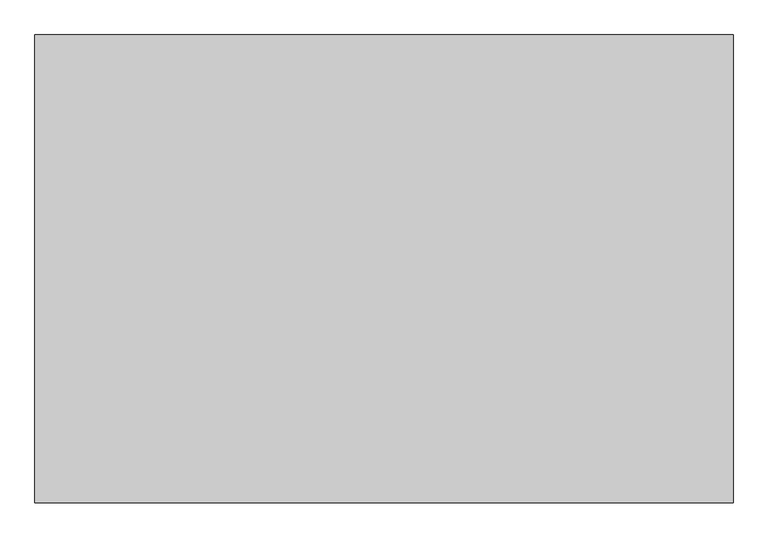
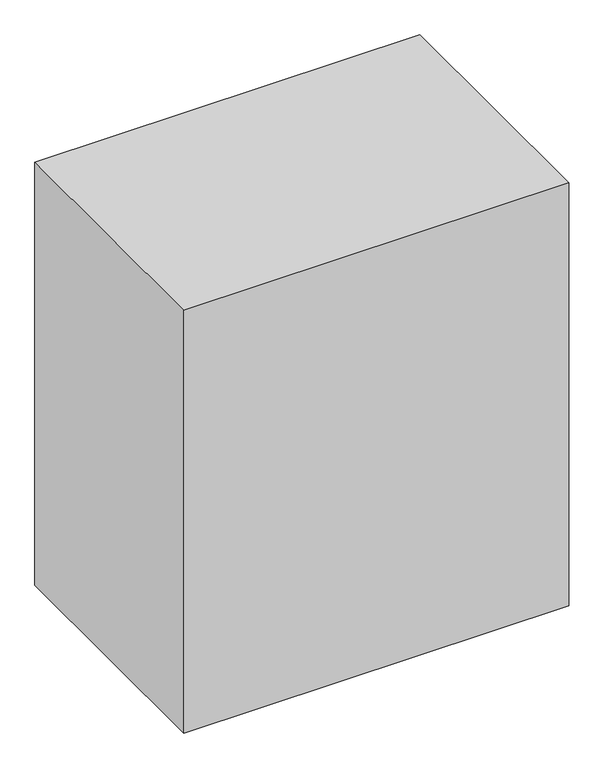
"""IFC4 building model written with IfcOpenShell, lengths in millimetres: proxy geometry."""

import ifcopenshell
import ifcopenshell.guid

model = None  # the IFC model being written
_history = None  # IfcOwnerHistory: only IFC2X3 demands one
_inside = {}  # id of a spatial element -> (the spatial element, [elements in it])
_under = {}  # id of a project, library or spatial element -> (it, [spatial elements below it])
_declared = {}  # id of a project -> (the project, [libraries it declares])
_typed = {}  # id of a type object -> (the type object, [elements of that type])
_made_of = {}  # id of a material, layer set ... -> (it, [elements and type objects made of it])


def new_model(schema):
    """Start an empty IFC model of exactly this schema.

    Asked for "IFC4X3", IfcOpenShell would pick the latest addendum, in which some entities
    have other attributes; the version numbers below select the first issue.
    IFC2X3 requires an IfcOwnerHistory on every rooted entity: one is made here for all.
    """
    global model, _history
    if schema == "IFC4X3":
        model = ifcopenshell.file(schema_version=(4, 3, 0, 0))
    else:
        model = ifcopenshell.file(schema=schema)
    _inside.clear()
    _under.clear()
    _declared.clear()
    _typed.clear()
    _made_of.clear()
    _history = None
    if model.schema == "IFC2X3":
        org = make("IfcOrganization", Name="unknown")
        user = make(
            "IfcPersonAndOrganization",
            ThePerson=make("IfcPerson", FamilyName="unknown"),
            TheOrganization=org,
        )
        app = make(
            "IfcApplication",
            ApplicationDeveloper=org,
            Version="unknown",
            ApplicationFullName="unknown",
            ApplicationIdentifier="unknown",
        )
        _history = make(
            "IfcOwnerHistory",
            OwningUser=user,
            OwningApplication=app,
            ChangeAction="ADDED",
            CreationDate=0,
        )
    return model


def make(cls, **values):
    """One entity of the class cls with the attributes given. An attribute that is None is left unset."""
    return model.create_entity(
        cls, **{name: value for name, value in values.items() if value is not None}
    )


def rooted(cls, **values):
    """An entity with a GlobalId (a new one), such as an element, a storey or a relation."""
    return make(cls, GlobalId=ifcopenshell.guid.new(), OwnerHistory=_history, **values)


def si_unit(unit_type, name, prefix=None):
    """IfcSIUnit, for example si_unit("LENGTHUNIT", "METRE", prefix="MILLI")."""
    return make("IfcSIUnit", UnitType=unit_type, Prefix=prefix, Name=name)


def assignment(units):
    """IfcUnitAssignment: the units of a project."""
    return None if units is None else make("IfcUnitAssignment", Units=units)


def point(xyz):
    """IfcCartesianPoint."""
    return None if xyz is None else make("IfcCartesianPoint", Coordinates=xyz)


def direction(xyz):
    """IfcDirection."""
    return None if xyz is None else make("IfcDirection", DirectionRatios=xyz)


def frame(location, z_axis=None, x_axis=None):
    """IfcAxis2Placement3D, a coordinate frame: its origin and axes. An axis left out is left unset."""
    return make(
        "IfcAxis2Placement3D",
        Location=point(location),
        Axis=direction(z_axis),
        RefDirection=direction(x_axis),
    )


def origin():
    """The frame at (0, 0, 0) with its axes left unset."""
    return frame((0.0, 0.0, 0.0))


def origin_with_axes():
    """The frame at (0, 0, 0) with the z axis (0, 0, 1) and the x axis (1, 0, 0) written out."""
    return frame((0.0, 0.0, 0.0), z_axis=(0.0, 0.0, 1.0), x_axis=(1.0, 0.0, 0.0))


def place(relative_to, where):
    """IfcLocalPlacement: puts the frame where relative to a parent placement (None: the world)."""
    return make(
        "IfcLocalPlacement", PlacementRelTo=relative_to, RelativePlacement=where
    )


def context(
    kind, dimensions, precision=None, world=None, true_north=None, identifier=None
):
    """IfcGeometricRepresentationContext, for example the 3D "Model" context."""
    return make(
        "IfcGeometricRepresentationContext",
        ContextIdentifier=identifier,
        ContextType=kind,
        CoordinateSpaceDimension=dimensions,
        Precision=precision,
        WorldCoordinateSystem=world,
        TrueNorth=true_north,
    )


def project(units=None, contexts=None):
    """IfcProject with its units and contexts."""
    return rooted(
        "IfcProject",
        Name="project",
        RepresentationContexts=contexts,
        UnitsInContext=assignment(units),
    )


def spatial(cls, under=None, at=None, **own):
    """A site, building, storey or space (cls), placed at a placement, below another one or the project."""
    s = rooted(cls, ObjectPlacement=at, **own)
    if under is not None:
        _under.setdefault(under.id(), (under, []))[1].append(s)
    return s


def polyline(points):
    """IfcPolyline through the points."""
    return make("IfcPolyline", Points=[point(p) for p in points])


def outline(outer, holes=None, kind="AREA"):
    """IfcArbitraryClosedProfileDef: a profile drawn as a closed curve; with holes, ...WithVoids."""
    if holes is None:
        return make("IfcArbitraryClosedProfileDef", ProfileType=kind, OuterCurve=outer)
    return make(
        "IfcArbitraryProfileDefWithVoids",
        ProfileType=kind,
        OuterCurve=outer,
        InnerCurves=holes,
    )


def extrude(swept, where, along, depth):
    """IfcExtrudedAreaSolid: the profile swept, set in the frame where, extruded along a direction by depth."""
    return make(
        "IfcExtrudedAreaSolid",
        SweptArea=swept,
        Position=where,
        ExtrudedDirection=direction(along),
        Depth=depth,
    )


def shape(context_of_items, identifier, shape_type, items):
    """IfcShapeRepresentation: the items that make up one representation, for example the "Body"."""
    return make(
        "IfcShapeRepresentation",
        ContextOfItems=context_of_items,
        RepresentationIdentifier=identifier,
        RepresentationType=shape_type,
        Items=items,
    )


def source(mapping_origin, context_of_items, identifier, shape_type, items):
    """IfcRepresentationMap: a shape defined once, which mapped items show again and again."""
    return make(
        "IfcRepresentationMap",
        MappingOrigin=mapping_origin,
        MappedRepresentation=shape(context_of_items, identifier, shape_type, items),
    )


def transform(
    local_origin,
    x_axis=None,
    y_axis=None,
    z_axis=None,
    scale=None,
    scale2=None,
    scale3=None,
    uniform=True,
):
    """IfcCartesianTransformationOperator3D, or its non-uniform kind. x_axis, y_axis, z_axis: its Axis1, 2, 3."""
    if uniform:
        return make(
            "IfcCartesianTransformationOperator3D",
            Axis1=direction(x_axis),
            Axis2=direction(y_axis),
            LocalOrigin=point(local_origin),
            Scale=scale,
            Axis3=direction(z_axis),
        )
    return make(
        "IfcCartesianTransformationOperator3DnonUniform",
        Axis1=direction(x_axis),
        Axis2=direction(y_axis),
        LocalOrigin=point(local_origin),
        Scale=scale,
        Axis3=direction(z_axis),
        Scale2=scale2,
        Scale3=scale3,
    )


def mapped(mapping_source, mapping_target):
    """IfcMappedItem: shows the shape of a source again, moved by a transform."""
    return make(
        "IfcMappedItem", MappingSource=mapping_source, MappingTarget=mapping_target
    )


def made_of(thing, what):
    """Note that an element or type object is made of a material, layer set ...; save() writes the relation."""
    if what is not None:
        _made_of.setdefault(what.id(), (what, []))[1].append(thing)
    return thing


def element(
    cls,
    number,
    at=None,
    inside=None,
    cuts=None,
    type_object=None,
    material=None,
    context=None,
    identifier="Body",
    shape_type=None,
    held_by="IfcProductDefinitionShape",
    body=None,
    shapes=None,
    **own,
):
    """One element of the class cls, such as IfcWall. Its Tag is "e" and its number.

    at: its placement. inside: the storey or other place that contains it. cuts: it is an
    opening in that element (IfcRelVoidsElement). A single representation is given by context,
    identifier, shape_type and body (its items); several are given by shapes. held_by: the class
    of the entity that holds the representations. save() writes the other relations.
    """
    e = rooted(cls, Tag="e%d" % number, ObjectPlacement=at, **own)
    if body is not None:
        shapes = [shape(context, identifier, shape_type, body)]
    if shapes is not None:
        e.Representation = make(held_by, Representations=shapes)
    if inside is not None:
        _inside.setdefault(inside.id(), (inside, []))[1].append(e)
    if cuts is not None:
        rooted(
            "IfcRelVoidsElement", RelatingBuildingElement=cuts, RelatedOpeningElement=e
        )
    if type_object is not None:
        _typed.setdefault(type_object.id(), (type_object, []))[1].append(e)
    return made_of(e, material)


def aggregate(whole, parts):
    """IfcRelAggregates: a whole, such as a stair, and the parts it consists of."""
    return rooted("IfcRelAggregates", RelatingObject=whole, RelatedObjects=parts)


def save(model, path):
    """Write the relations noted so far, then the file.

    IfcRelAggregates (storeys below a building ...), IfcRelContainedInSpatialStructure (elements
    in a storey), IfcRelDefinesByType, IfcRelAssociatesMaterial and IfcRelDeclares: one each for
    every whole, place, type object, material and project.
    """
    for whole, parts in _under.values():
        aggregate(whole, parts)
    for where, things in _inside.values():
        rooted(
            "IfcRelContainedInSpatialStructure",
            RelatedElements=things,
            RelatingStructure=where,
        )
    for kind, things in _typed.values():
        rooted("IfcRelDefinesByType", RelatedObjects=things, RelatingType=kind)
    for what, things in _made_of.values():
        rooted("IfcRelAssociatesMaterial", RelatedObjects=things, RelatingMaterial=what)
    for by, libraries in _declared.values():
        rooted("IfcRelDeclares", RelatingContext=by, RelatedDefinitions=libraries)
    model.write(path)


def generic_models_2da33919(model_context):
    return source(origin(), model_context, "Body", "SweptSolid", [
        extrude(outline(polyline([(-93558.5922282, -30450.7903364), (-91319.3218005, -30450.7903364), (-91319.3218005, -31950.7903364), (-93558.5922282, -31950.7903364), (-93558.5922282, -30450.7903364)])), origin_with_axes(), (0.0, 0.0, 1.0), 2600.0),
    ])


if __name__ == "__main__":
    model = new_model("IFC4")
    model_context = context("Model", 3, world=origin())
    ifc_project = project(units=[si_unit("LENGTHUNIT", "METRE", prefix="MILLI")], contexts=[model_context])
    site = spatial("IfcSite", under=ifc_project)
    building = spatial("IfcBuilding", under=site)
    placement = place(None, origin())
    generic_models_shape = generic_models_2da33919(model_context)
    element("IfcBuildingElementProxy", 1, Name="Generic Models", at=placement, inside=building, context=model_context, shape_type="MappedRepresentation", body=[
        mapped(generic_models_shape, transform((0.0, 0.0, 0.0), x_axis=(1.0, 0.0, 0.0), y_axis=(0.0, 1.0, 0.0), z_axis=(0.0, 0.0, 1.0))),
    ])
    save(model, "model.ifc")
